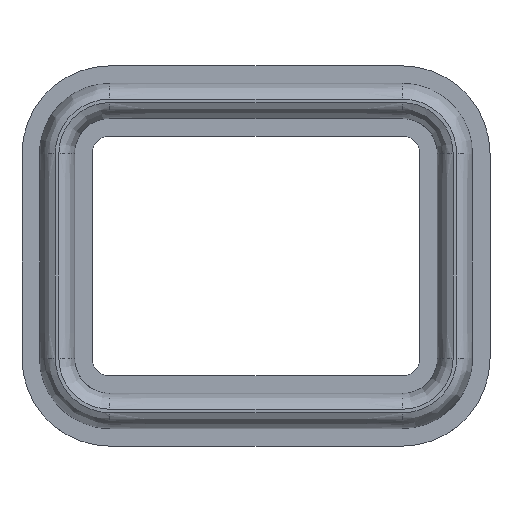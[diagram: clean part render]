
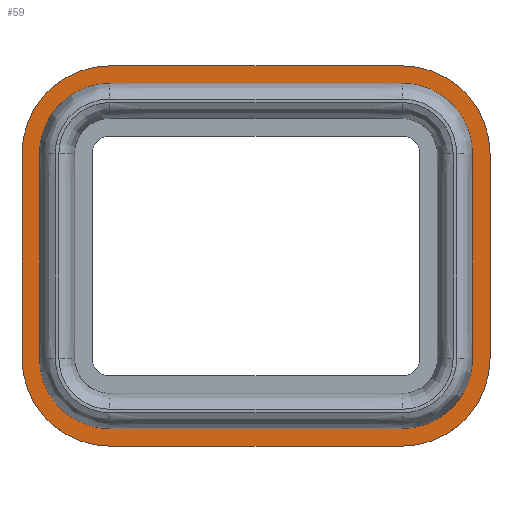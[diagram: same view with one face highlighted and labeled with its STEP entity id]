
A CAD part, top view. The second image highlights one B-rep face of the part: STEP entity #59.
In plain terms, the highlighted planar face has unit normal (0, 0, 1).
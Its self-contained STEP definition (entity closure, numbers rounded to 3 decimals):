
#21 = EDGE_CURVE('',#22,#24,#26,.T.);
#22 = VERTEX_POINT('',#23);
#23 = CARTESIAN_POINT('',(-8.,-3.5,0.8));
#24 = VERTEX_POINT('',#25);
#25 = CARTESIAN_POINT('',(-5.,-6.5,0.8));
#26 = CIRCLE('',#27,3.);
#27 = AXIS2_PLACEMENT_3D('',#28,#29,#30);
#28 = CARTESIAN_POINT('',(-5.,-3.5,0.8));
#29 = DIRECTION('',(0.,0.,1.));
#30 = DIRECTION('',(1.,0.,-0.));
#59 = ADVANCED_FACE('',(#60,#120),#234,.T.);
#60 = FACE_BOUND('',#61,.T.);
#61 = EDGE_LOOP('',(#62,#63,#71,#80,#88,#97,#105,#114));
#62 = ORIENTED_EDGE('',*,*,#21,.T.);
#63 = ORIENTED_EDGE('',*,*,#64,.T.);
#64 = EDGE_CURVE('',#24,#65,#67,.T.);
#65 = VERTEX_POINT('',#66);
#66 = CARTESIAN_POINT('',(5.,-6.5,0.8));
#67 = LINE('',#68,#69);
#68 = CARTESIAN_POINT('',(-5.,-6.5,0.8));
#69 = VECTOR('',#70,1.);
#70 = DIRECTION('',(1.,0.,-0.));
#71 = ORIENTED_EDGE('',*,*,#72,.T.);
#72 = EDGE_CURVE('',#65,#73,#75,.T.);
#73 = VERTEX_POINT('',#74);
#74 = CARTESIAN_POINT('',(8.,-3.5,0.8));
#75 = CIRCLE('',#76,3.);
#76 = AXIS2_PLACEMENT_3D('',#77,#78,#79);
#77 = CARTESIAN_POINT('',(5.,-3.5,0.8));
#78 = DIRECTION('',(0.,0.,1.));
#79 = DIRECTION('',(1.,0.,-0.));
#80 = ORIENTED_EDGE('',*,*,#81,.T.);
#81 = EDGE_CURVE('',#73,#82,#84,.T.);
#82 = VERTEX_POINT('',#83);
#83 = CARTESIAN_POINT('',(8.,3.5,0.8));
#84 = LINE('',#85,#86);
#85 = CARTESIAN_POINT('',(8.,-3.5,0.8));
#86 = VECTOR('',#87,1.);
#87 = DIRECTION('',(-0.,1.,0.));
#88 = ORIENTED_EDGE('',*,*,#89,.T.);
#89 = EDGE_CURVE('',#82,#90,#92,.T.);
#90 = VERTEX_POINT('',#91);
#91 = CARTESIAN_POINT('',(5.,6.5,0.8));
#92 = CIRCLE('',#93,3.);
#93 = AXIS2_PLACEMENT_3D('',#94,#95,#96);
#94 = CARTESIAN_POINT('',(5.,3.5,0.8));
#95 = DIRECTION('',(0.,0.,1.));
#96 = DIRECTION('',(1.,0.,-0.));
#97 = ORIENTED_EDGE('',*,*,#98,.F.);
#98 = EDGE_CURVE('',#99,#90,#101,.T.);
#99 = VERTEX_POINT('',#100);
#100 = CARTESIAN_POINT('',(-5.,6.5,0.8));
#101 = LINE('',#102,#103);
#102 = CARTESIAN_POINT('',(-5.,6.5,0.8));
#103 = VECTOR('',#104,1.);
#104 = DIRECTION('',(1.,0.,-0.));
#105 = ORIENTED_EDGE('',*,*,#106,.T.);
#106 = EDGE_CURVE('',#99,#107,#109,.T.);
#107 = VERTEX_POINT('',#108);
#108 = CARTESIAN_POINT('',(-8.,3.5,0.8));
#109 = CIRCLE('',#110,3.);
#110 = AXIS2_PLACEMENT_3D('',#111,#112,#113);
#111 = CARTESIAN_POINT('',(-5.,3.5,0.8));
#112 = DIRECTION('',(0.,0.,1.));
#113 = DIRECTION('',(1.,0.,-0.));
#114 = ORIENTED_EDGE('',*,*,#115,.F.);
#115 = EDGE_CURVE('',#22,#107,#116,.T.);
#116 = LINE('',#117,#118);
#117 = CARTESIAN_POINT('',(-8.,-3.5,0.8));
#118 = VECTOR('',#119,1.);
#119 = DIRECTION('',(-0.,1.,0.));
#120 = FACE_BOUND('',#121,.T.);
#121 = EDGE_LOOP('',(#122,#138,#152,#166,#180,#194,#208,#222));
#122 = ORIENTED_EDGE('',*,*,#123,.F.);
#123 = EDGE_CURVE('',#124,#126,#128,.T.);
#124 = VERTEX_POINT('',#125);
#125 = CARTESIAN_POINT('',(5.,-5.9,0.8));
#126 = VERTEX_POINT('',#127);
#127 = CARTESIAN_POINT('',(7.4,-3.5,0.8));
#128 = B_SPLINE_CURVE_WITH_KNOTS('',8,(#129,#130,#131,#132,#133,#134,
    #135,#136,#137),.UNSPECIFIED.,.F.,.F.,(9,9),(0.,1.),
  .PIECEWISE_BEZIER_KNOTS.);
#129 = CARTESIAN_POINT('',(5.,-5.9,0.8));
#130 = CARTESIAN_POINT('',(5.471,-5.9,0.8));
#131 = CARTESIAN_POINT('',(5.942,-5.794,0.8));
#132 = CARTESIAN_POINT('',(6.386,-5.583,0.8));
#133 = CARTESIAN_POINT('',(6.774,-5.274,0.8));
#134 = CARTESIAN_POINT('',(7.083,-4.886,0.8));
#135 = CARTESIAN_POINT('',(7.294,-4.442,0.8));
#136 = CARTESIAN_POINT('',(7.4,-3.971,0.8));
#137 = CARTESIAN_POINT('',(7.4,-3.5,0.8));
#138 = ORIENTED_EDGE('',*,*,#139,.F.);
#139 = EDGE_CURVE('',#140,#124,#142,.T.);
#140 = VERTEX_POINT('',#141);
#141 = CARTESIAN_POINT('',(-5.,-5.9,0.8));
#142 = B_SPLINE_CURVE_WITH_KNOTS('',8,(#143,#144,#145,#146,#147,#148,
    #149,#150,#151),.UNSPECIFIED.,.F.,.F.,(9,9),(7.,8.),
  .PIECEWISE_BEZIER_KNOTS.);
#143 = CARTESIAN_POINT('',(-5.,-5.9,0.8));
#144 = CARTESIAN_POINT('',(-3.75,-5.9,0.8));
#145 = CARTESIAN_POINT('',(-2.5,-5.9,0.8));
#146 = CARTESIAN_POINT('',(-1.25,-5.9,0.8));
#147 = CARTESIAN_POINT('',(0.,-5.9,0.8));
#148 = CARTESIAN_POINT('',(1.25,-5.9,0.8));
#149 = CARTESIAN_POINT('',(2.5,-5.9,0.8));
#150 = CARTESIAN_POINT('',(3.75,-5.9,0.8));
#151 = CARTESIAN_POINT('',(5.,-5.9,0.8));
#152 = ORIENTED_EDGE('',*,*,#153,.F.);
#153 = EDGE_CURVE('',#154,#140,#156,.T.);
#154 = VERTEX_POINT('',#155);
#155 = CARTESIAN_POINT('',(-7.4,-3.5,0.8));
#156 = B_SPLINE_CURVE_WITH_KNOTS('',8,(#157,#158,#159,#160,#161,#162,
    #163,#164,#165),.UNSPECIFIED.,.F.,.F.,(9,9),(6.,7.),
  .PIECEWISE_BEZIER_KNOTS.);
#157 = CARTESIAN_POINT('',(-7.4,-3.5,0.8));
#158 = CARTESIAN_POINT('',(-7.4,-3.971,0.8));
#159 = CARTESIAN_POINT('',(-7.294,-4.442,0.8));
#160 = CARTESIAN_POINT('',(-7.083,-4.886,0.8));
#161 = CARTESIAN_POINT('',(-6.774,-5.274,0.8));
#162 = CARTESIAN_POINT('',(-6.386,-5.583,0.8));
#163 = CARTESIAN_POINT('',(-5.942,-5.794,0.8));
#164 = CARTESIAN_POINT('',(-5.471,-5.9,0.8));
#165 = CARTESIAN_POINT('',(-5.,-5.9,0.8));
#166 = ORIENTED_EDGE('',*,*,#167,.F.);
#167 = EDGE_CURVE('',#168,#154,#170,.T.);
#168 = VERTEX_POINT('',#169);
#169 = CARTESIAN_POINT('',(-7.4,3.5,0.8));
#170 = B_SPLINE_CURVE_WITH_KNOTS('',8,(#171,#172,#173,#174,#175,#176,
    #177,#178,#179),.UNSPECIFIED.,.F.,.F.,(9,9),(5.,6.),
  .PIECEWISE_BEZIER_KNOTS.);
#171 = CARTESIAN_POINT('',(-7.4,3.5,0.8));
#172 = CARTESIAN_POINT('',(-7.4,2.625,0.8));
#173 = CARTESIAN_POINT('',(-7.4,1.75,0.8));
#174 = CARTESIAN_POINT('',(-7.4,0.875,0.8));
#175 = CARTESIAN_POINT('',(-7.4,0.,0.8));
#176 = CARTESIAN_POINT('',(-7.4,-0.875,0.8));
#177 = CARTESIAN_POINT('',(-7.4,-1.75,0.8));
#178 = CARTESIAN_POINT('',(-7.4,-2.625,0.8));
#179 = CARTESIAN_POINT('',(-7.4,-3.5,0.8));
#180 = ORIENTED_EDGE('',*,*,#181,.F.);
#181 = EDGE_CURVE('',#182,#168,#184,.T.);
#182 = VERTEX_POINT('',#183);
#183 = CARTESIAN_POINT('',(-5.,5.9,0.8));
#184 = B_SPLINE_CURVE_WITH_KNOTS('',8,(#185,#186,#187,#188,#189,#190,
    #191,#192,#193),.UNSPECIFIED.,.F.,.F.,(9,9),(4.,5.),
  .PIECEWISE_BEZIER_KNOTS.);
#185 = CARTESIAN_POINT('',(-5.,5.9,0.8));
#186 = CARTESIAN_POINT('',(-5.471,5.9,0.8));
#187 = CARTESIAN_POINT('',(-5.942,5.794,0.8));
#188 = CARTESIAN_POINT('',(-6.386,5.583,0.8));
#189 = CARTESIAN_POINT('',(-6.774,5.274,0.8));
#190 = CARTESIAN_POINT('',(-7.083,4.886,0.8));
#191 = CARTESIAN_POINT('',(-7.294,4.442,0.8));
#192 = CARTESIAN_POINT('',(-7.4,3.971,0.8));
#193 = CARTESIAN_POINT('',(-7.4,3.5,0.8));
#194 = ORIENTED_EDGE('',*,*,#195,.F.);
#195 = EDGE_CURVE('',#196,#182,#198,.T.);
#196 = VERTEX_POINT('',#197);
#197 = CARTESIAN_POINT('',(5.,5.9,0.8));
#198 = B_SPLINE_CURVE_WITH_KNOTS('',8,(#199,#200,#201,#202,#203,#204,
    #205,#206,#207),.UNSPECIFIED.,.F.,.F.,(9,9),(3.,4.),
  .PIECEWISE_BEZIER_KNOTS.);
#199 = CARTESIAN_POINT('',(5.,5.9,0.8));
#200 = CARTESIAN_POINT('',(3.75,5.9,0.8));
#201 = CARTESIAN_POINT('',(2.5,5.9,0.8));
#202 = CARTESIAN_POINT('',(1.25,5.9,0.8));
#203 = CARTESIAN_POINT('',(0.,5.9,0.8));
#204 = CARTESIAN_POINT('',(-1.25,5.9,0.8));
#205 = CARTESIAN_POINT('',(-2.5,5.9,0.8));
#206 = CARTESIAN_POINT('',(-3.75,5.9,0.8));
#207 = CARTESIAN_POINT('',(-5.,5.9,0.8));
#208 = ORIENTED_EDGE('',*,*,#209,.F.);
#209 = EDGE_CURVE('',#210,#196,#212,.T.);
#210 = VERTEX_POINT('',#211);
#211 = CARTESIAN_POINT('',(7.4,3.5,0.8));
#212 = B_SPLINE_CURVE_WITH_KNOTS('',8,(#213,#214,#215,#216,#217,#218,
    #219,#220,#221),.UNSPECIFIED.,.F.,.F.,(9,9),(2.,3.),
  .PIECEWISE_BEZIER_KNOTS.);
#213 = CARTESIAN_POINT('',(7.4,3.5,0.8));
#214 = CARTESIAN_POINT('',(7.4,3.971,0.8));
#215 = CARTESIAN_POINT('',(7.294,4.442,0.8));
#216 = CARTESIAN_POINT('',(7.083,4.886,0.8));
#217 = CARTESIAN_POINT('',(6.774,5.274,0.8));
#218 = CARTESIAN_POINT('',(6.386,5.583,0.8));
#219 = CARTESIAN_POINT('',(5.942,5.794,0.8));
#220 = CARTESIAN_POINT('',(5.471,5.9,0.8));
#221 = CARTESIAN_POINT('',(5.,5.9,0.8));
#222 = ORIENTED_EDGE('',*,*,#223,.F.);
#223 = EDGE_CURVE('',#126,#210,#224,.T.);
#224 = B_SPLINE_CURVE_WITH_KNOTS('',8,(#225,#226,#227,#228,#229,#230,
    #231,#232,#233),.UNSPECIFIED.,.F.,.F.,(9,9),(1.,2.),
  .PIECEWISE_BEZIER_KNOTS.);
#225 = CARTESIAN_POINT('',(7.4,-3.5,0.8));
#226 = CARTESIAN_POINT('',(7.4,-2.625,0.8));
#227 = CARTESIAN_POINT('',(7.4,-1.75,0.8));
#228 = CARTESIAN_POINT('',(7.4,-0.875,0.8));
#229 = CARTESIAN_POINT('',(7.4,0.,0.8));
#230 = CARTESIAN_POINT('',(7.4,0.875,0.8));
#231 = CARTESIAN_POINT('',(7.4,1.75,0.8));
#232 = CARTESIAN_POINT('',(7.4,2.625,0.8));
#233 = CARTESIAN_POINT('',(7.4,3.5,0.8));
#234 = PLANE('',#235);
#235 = AXIS2_PLACEMENT_3D('',#236,#237,#238);
#236 = CARTESIAN_POINT('',(0.,0.,0.8));
#237 = DIRECTION('',(0.,0.,1.));
#238 = DIRECTION('',(1.,0.,-0.));
